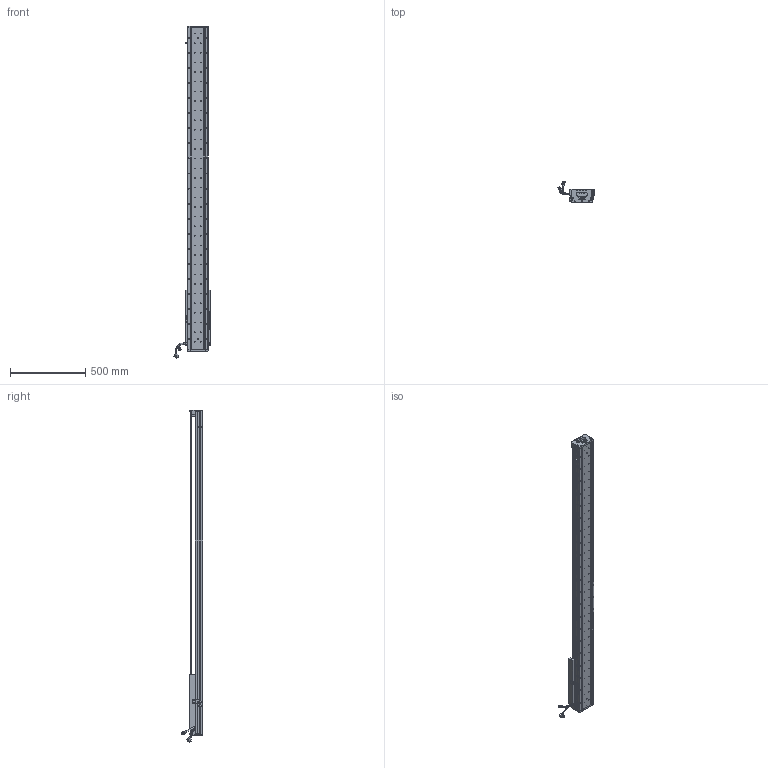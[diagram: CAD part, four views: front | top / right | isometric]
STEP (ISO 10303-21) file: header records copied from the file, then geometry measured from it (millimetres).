
FILE_DESCRIPTION (( 'STEP AP203' ), '1' );
FILE_NAME ('Z5-RY140D-1-L500-B-K.SLDASM_1700.step', '2021-05-17T08:37:31', ( '盈信电脑' ), ( '东莞市道滘镇水果街19号' ), 'SwSTEP 2.0', 'SolidWorks 2016', '' );
FILE_SCHEMA (( 'CONFIG_CONTROL_DESIGN' ));
Length unit declared in the file: millimetre
Products named in the file (36): Z5-RY140圉猾敕臏賑輸(21遴); SCREW-M1.6-1; COVER; 覜茼ん672; SCREW-M1.6-3; SCALE-Part-1; Z5-RY140-L500直线电机模组底座_1700; COVER-Part-1; 140蚥薯蝶輸; SCREW-M1.6; PSLH080_PSLF2; SHIELDPLATE; SCALE-Part-2; 140-Z-臏賑輸盄裔(21遴); HOLDER0; 詩湍狟揤裔; Z5-RY140-L500詩湍100mm遵_1700; PBU_SHEET; HARNESS; Z5-RY140D-1-L500-B-K.SLDASM_1700; 140雄赽晤鎢ん堤盄; SCREW-M1.7-1; Z-RY140感应器672光电感应片; HARNESS-Part-1; LABEL; SEAL-Part-1; SCREW-M1.6-2; SCREW-M1.7; HARNESS-Part-2; 榋妏寠巭燃_暯_M2_2; SCALE; 詩湍奻揤裔; 080黍杅芛假蚾釱21遴; Z-140詩湍傷裔啣; LABEL-Part-1; SEAL
Assembly tree (41 placements, depth 4):
  Z5-RY140D-1-L500-B-K.SLDASM_1700
    Z5-RY140-L500直线电机模组底座_1700
    Z-RY140感应器672光电感应片
    Z5-RY140圉猾敕臏賑輸(21遴)
    覜茼ん672  x3
    Z5-RY140-L500詩湍100mm遵_1700
    PSLH080_PSLF2
      SCALE
        SCALE-Part-1
        SCALE-Part-2
      HARNESS
        HARNESS-Part-1
        HARNESS-Part-2
      LABEL
        LABEL-Part-1
      COVER
        COVER-Part-1
      SEAL
        SEAL-Part-1
      榋妏寠巭燃_暯_M2_2
      SHIELDPLATE
      SCREW-M1.7
      SCREW-M1.7-1
      PBU_SHEET
      SCREW-M1.6
      SCREW-M1.6-1
      SCREW-M1.6-2
      SCREW-M1.6-3
      HOLDER0
    080黍杅芛假蚾釱21遴
    140-Z-臏賑輸盄裔(21遴)
    Z-140詩湍傷裔啣  x2
    詩湍狟揤裔  x2
    詩湍奻揤裔  x2
    140蚥薯蝶輸  x2
    140雄赽晤鎢ん堤盄
Bounding box: 239.84 x 143.88 x 2205.87 mm (x, y, z)
Volume: 7634000.8 mm3; surface area: 1945324 mm2
Topology: 36 solids, 36 shells, 3832 faces, 10340 edges, 6551 vertices
Faces by surface type: cylinder 2026, plane 1310, cone 374, torus 69, bspline 53
Entity records: 119396 total; most frequent: CARTESIAN_POINT 32691, ORIENTED_EDGE 17656, DIRECTION 16692, EDGE_CURVE 8828, AXIS2_PLACEMENT_3D 6216, VERTEX_POINT 5719, LINE 4260, VECTOR 4260
